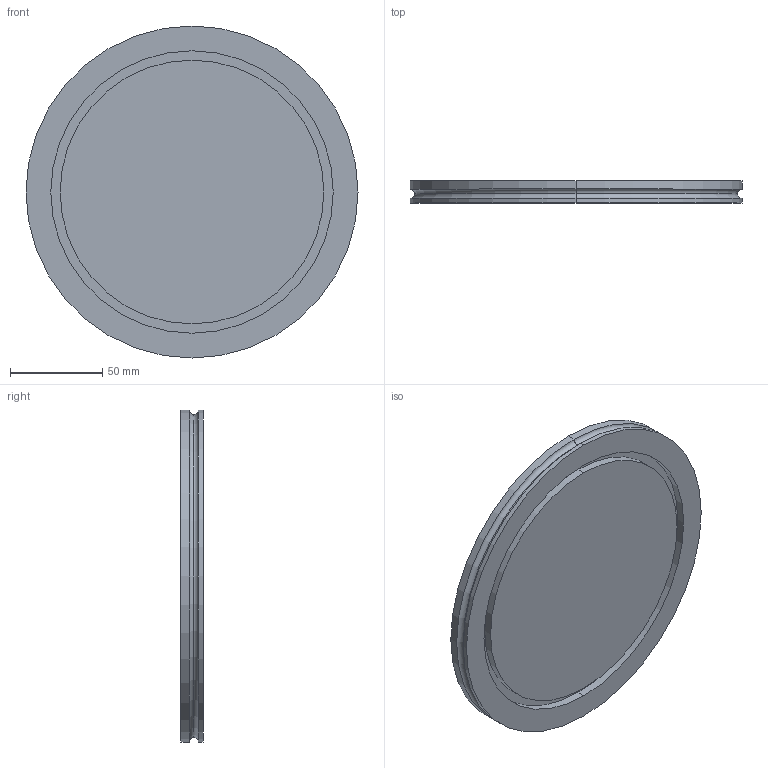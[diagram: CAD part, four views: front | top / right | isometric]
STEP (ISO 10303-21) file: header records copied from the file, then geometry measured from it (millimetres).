
FILE_DESCRIPTION (( 'STEP AP214' ), '1' );
FILE_NAME ('W4BF160.STEP', '2019-03-27T08:43:03', ( '' ), ( '' ), 'SwSTEP 2.0', 'SolidWorks 2018', '' );
FILE_SCHEMA (( 'AUTOMOTIVE_DESIGN' ));
Length unit declared in the file: millimetre
Products named in the file (1): W4BF160
Bounding box: 180 x 12 x 180 mm (x, y, z)
Volume: 283414.9 mm3; surface area: 65543.6 mm2
Topology: 1 solids, 1 shells, 22 faces, 42 edges, 26 vertices
Faces by surface type: cylinder 12, plane 6, torus 4
Entity records: 602 total; most frequent: DIRECTION 118, CARTESIAN_POINT 91, ORIENTED_EDGE 84, AXIS2_PLACEMENT_3D 53, EDGE_CURVE 42, CIRCLE 30, EDGE_LOOP 26, VERTEX_POINT 26
